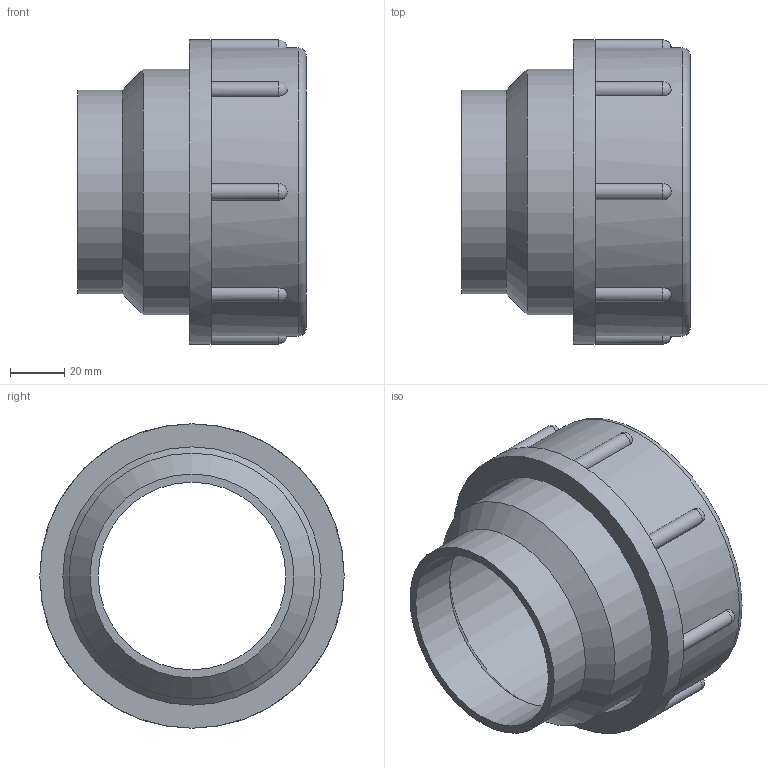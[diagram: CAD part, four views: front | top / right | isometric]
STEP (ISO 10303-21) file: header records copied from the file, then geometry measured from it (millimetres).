
FILE_DESCRIPTION((''),'2;1');
FILE_NAME('F:\Geberit_PE\Export\PE Verschraubung\stp\365740.stp','2011-03-17T20:59:03',(''),(''),'Autodesk Inventor 2011','Autodesk Inventor 2011','');
FILE_SCHEMA(('AUTOMOTIVE_DESIGN { 1 2 10303 214 0 1 1 1 }'));
Length unit declared in the file: millimetre
Products named in the file (1): 365740
Bounding box: 84 x 112 x 112 mm (x, y, z)
Volume: 232628.4 mm3; surface area: 72957.6 mm2
Topology: 2 solids, 2 shells, 51 faces, 139 edges, 83 vertices
Faces by surface type: cylinder 20, plane 14, cone 8, sphere 8, torus 1
Full cylindrical faces by diameter (mm): 69 x1, 75 x1, 76 x3, 90.4 x2, 90.5 x1, 95 x2, 106 x1, 112 x1
Entity records: 1660 total; most frequent: CARTESIAN_POINT 419, DIRECTION 272, ORIENTED_EDGE 216, AXIS2_PLACEMENT_3D 128, EDGE_CURVE 108, VERTEX_POINT 83, EDGE_LOOP 78, CIRCLE 76
